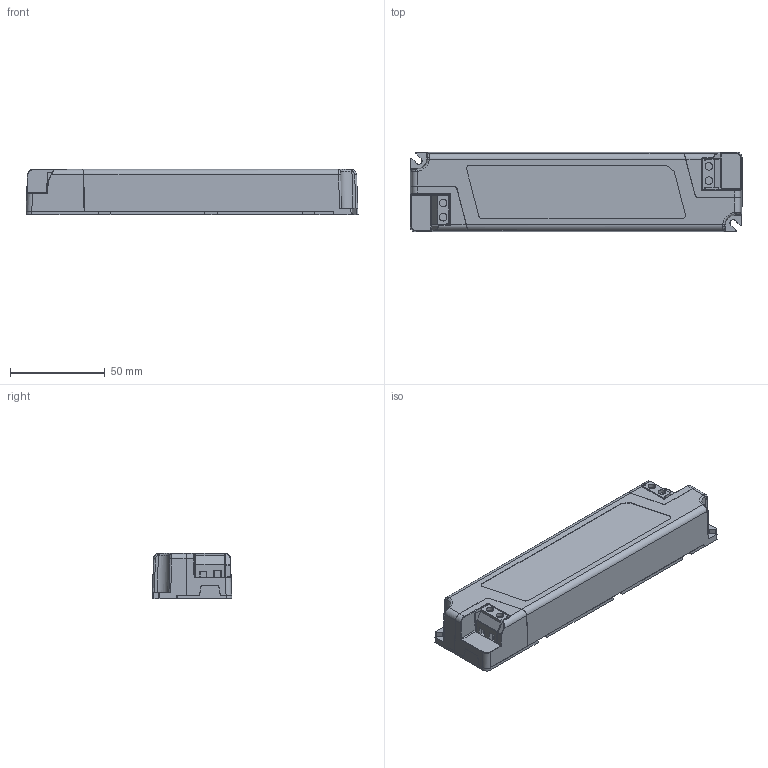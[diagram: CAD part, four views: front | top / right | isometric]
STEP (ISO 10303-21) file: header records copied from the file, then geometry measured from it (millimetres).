
FILE_DESCRIPTION(('Creo Elements/Direct Modeling STEP Export'),'2;1');
FILE_NAME('ICL-28L.stp','2019-11-06T11:02:39',(''),(''),'PTC Creo Elements/Direct Modeling STEP processor for AP214 (Solid Model)','PTC Creo Elements/Direct Modeling 19.0E 27-Jun-2016 (C) Parametric Technology GmbH','');
FILE_SCHEMA(('AUTOMOTIVE_DESIGN { 1 0 10303 214 1 1 1 1 }'));
Length unit declared in the file: millimetre
Products named in the file (9): base; top; ICL-28L-R-5_22_PRT.prt; CASE; TB1; TB2; PCB; ICL-28L
Assembly tree (9 placements, depth 3):
  ICL-28L
    PCB
      PCB
      TB2
      TB1
    CASE
      ICL-28L-R-5_22_PRT.prt  x2
      top
      base
Bounding box: 175 x 42 x 24.2 mm (x, y, z)
Volume: 50546.3 mm3; surface area: 69212.7 mm2
Topology: 7 solids, 7 shells, 954 faces, 2628 edges, 1721 vertices
Faces by surface type: plane 613, cylinder 225, bspline 68, cone 22, extrusion 14, torus 12
Entity records: 31286 total; most frequent: CARTESIAN_POINT 11062, ORIENTED_EDGE 4380, DIRECTION 3699, EDGE_CURVE 2190, VECTOR 1591, LINE 1577, VERTEX_POINT 1437, AXIS2_PLACEMENT_3D 1054
